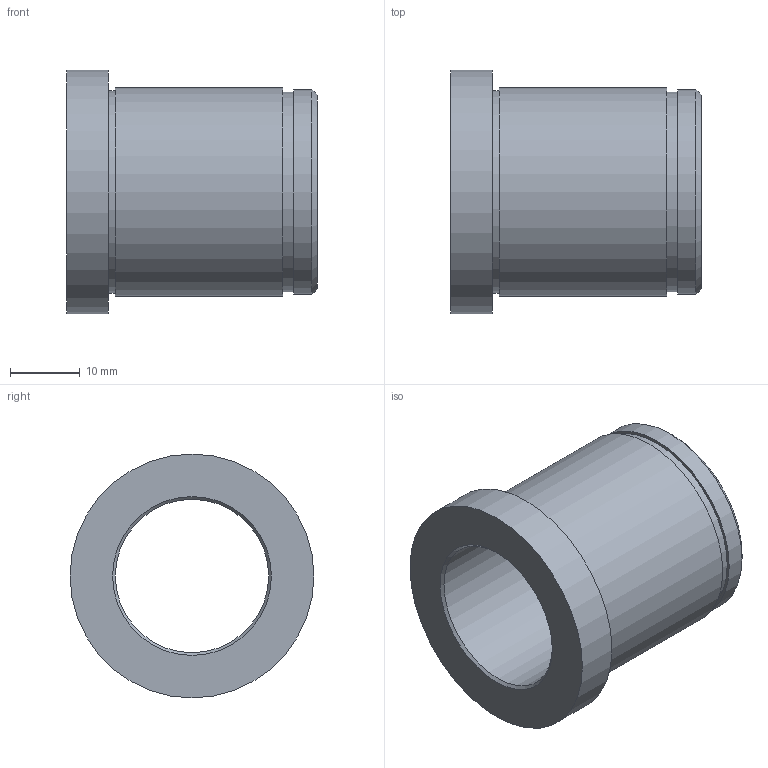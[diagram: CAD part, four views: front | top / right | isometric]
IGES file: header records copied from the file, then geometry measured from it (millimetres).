
Global section: file name: BG05.022036.ipt; native system: Autodesk Inventor 2021; preprocessor: unknown; author: SM; date: 20211221.172721; units: millimetre
Bounding box: 36 x 35 x 35 mm (x, y, z)
Volume: 13008.8 mm3; surface area: 7212.2 mm2
Topology: 1 solids, 1 shells, 15 faces, 26 edges, 17 vertices
Faces by surface type: plane 6, cylinder 5, revolution 3, cone 1
Full cylindrical faces by diameter (mm): 28.6 x1, 29 x1, 29.4 x1, 30 x1, 35 x1
